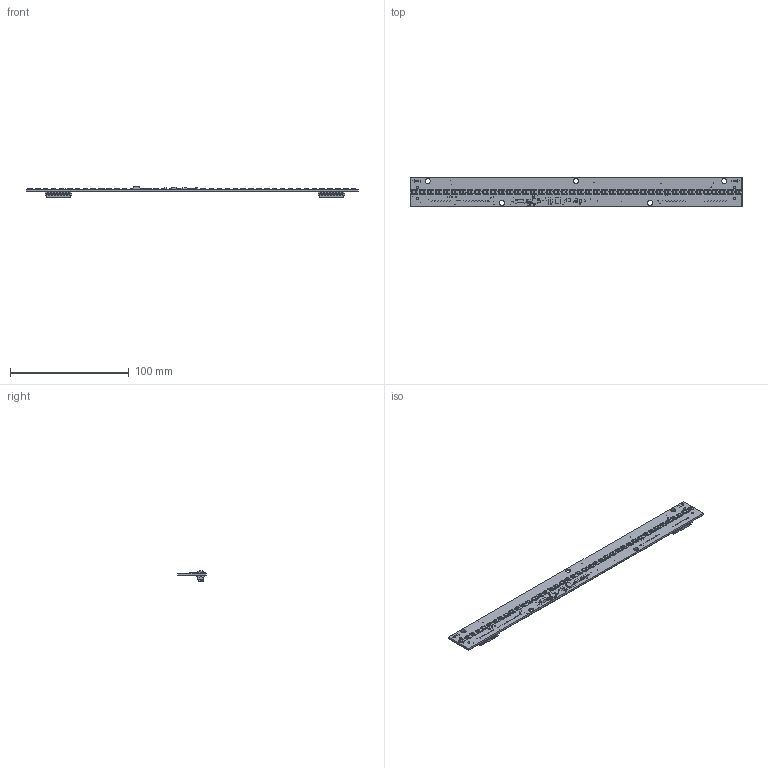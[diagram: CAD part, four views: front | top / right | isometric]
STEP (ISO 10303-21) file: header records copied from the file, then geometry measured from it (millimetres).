
FILE_DESCRIPTION (( 'STEP AP203' ), '1' );
FILE_NAME ('24.700.025.01 B MLTM PCBA 1 FT LUMENETIX 16 PIN BOTTOM CONNECTORS.STEP', '2017-02-15T18:34:39', ( 'Rob' ), ( '' ), 'SwSTEP 2.0', 'SolidWorks 2016', '' );
FILE_SCHEMA (( 'CONFIG_CONTROL_DESIGN' ));
Length unit declared in the file: millimetre
Products named in the file (8): lumileds 3535L; TEST PADS; DIRECTION ARROW; 462.038 16 PIN CONNECTOR 8-188275-6; 67.700.002.01 A LTM2 INSULATOR PAD 1FT LX; 22_700_025_01_RevB_ASSY_021017A FROM EMN; 24.700.025.01 B MLTM PCBA 1 FT LUMENETIX 16 PIN BOTTOM CONNECTORS; 22.700.025.01 1 MLTM PCB 1 FT LUMENETIX
Assembly tree (50 placements, depth 2):
  24.700.025.01 B MLTM PCBA 1 FT LUMENETIX 16 PIN BOTTOM CONNECTORS
    22.700.025.01 1 MLTM PCB 1 FT LUMENETIX
    lumileds 3535L  x42
    TEST PADS
    DIRECTION ARROW  x2
    462.038 16 PIN CONNECTOR 8-188275-6  x2
    67.700.002.01 A LTM2 INSULATOR PAD 1FT LX
    22_700_025_01_RevB_ASSY_021017A FROM EMN
Bounding box: 280 x 24 x 9.05 mm (x, y, z)
Volume: 23833.4 mm3; surface area: 46859 mm2
Topology: 247 solids, 247 shells, 4078 faces, 10748 edges, 7164 vertices
Faces by surface type: plane 2615, cylinder 1463
Entity records: 78741 total; most frequent: DIRECTION 13517, CARTESIAN_POINT 13045, ORIENTED_EDGE 12830, EDGE_CURVE 6415, AXIS2_PLACEMENT_3D 4748, VERTEX_POINT 4276, VECTOR 4021, LINE 4021
